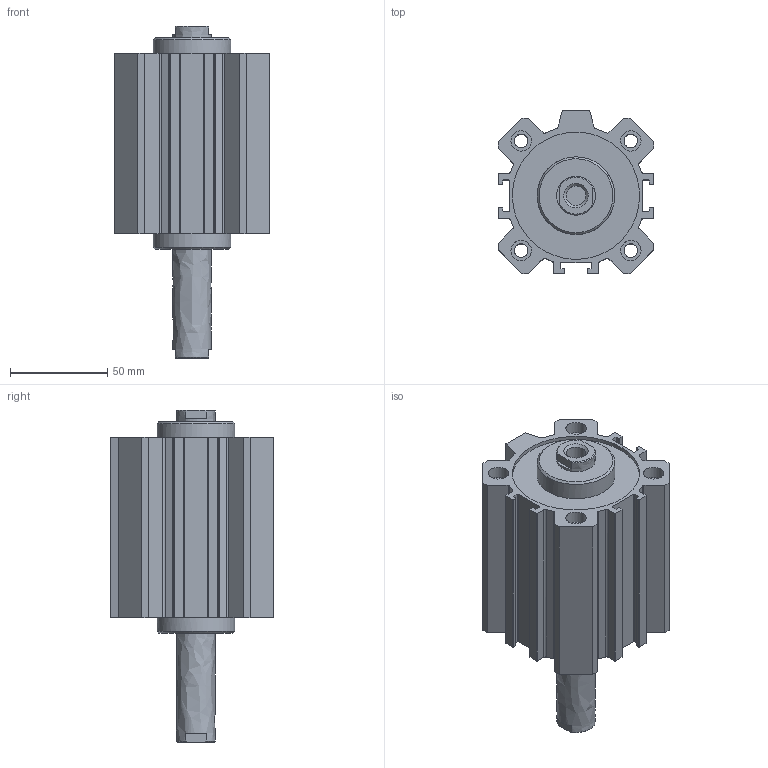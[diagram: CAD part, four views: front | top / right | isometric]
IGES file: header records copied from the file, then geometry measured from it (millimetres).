
Global section: file name: 1514_63_0050; native system: Autodesk Inventor 2014; preprocessor: unknown; author: A. Manieri; date: 20160824.140253; units: millimetre
Bounding box: 80 x 84 x 171 mm (x, y, z)
Volume: 368446.6 mm3; surface area: 102237.5 mm2
Topology: 2 solids, 2 shells, 178 faces, 482 edges, 328 vertices
Faces by surface type: bspline 178
